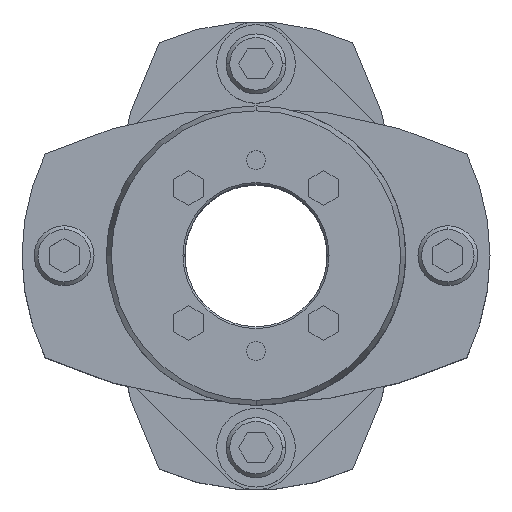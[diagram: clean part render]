
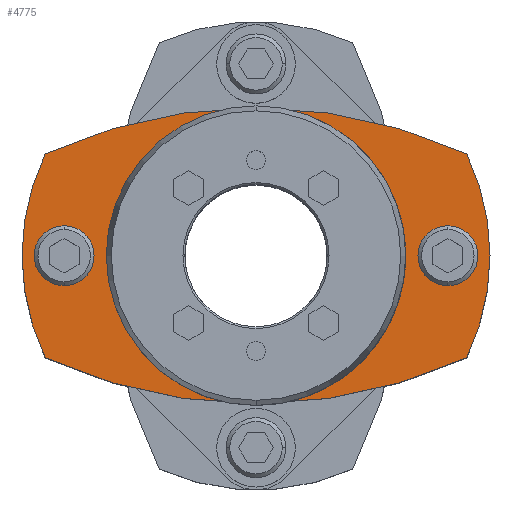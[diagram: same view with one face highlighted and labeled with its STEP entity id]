
A CAD part, top view. The second image highlights one B-rep face of the part: STEP entity #4775.
In plain terms, the highlighted planar face has unit normal (0, 0, 1).
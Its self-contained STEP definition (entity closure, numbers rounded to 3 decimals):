
#2207=CARTESIAN_POINT('',(0.,39.5,35.5));
#2208=VERTEX_POINT('',#2207);
#2224=CARTESIAN_POINT('',(-56.263,27.217,35.5));
#2225=VERTEX_POINT('',#2224);
#2232=CARTESIAN_POINT('',(0.,-95.5,35.5));
#2233=DIRECTION('',(0.0,0.0,-1.0));
#2234=DIRECTION('',(0.0,1.0,0.0));
#2235=AXIS2_PLACEMENT_3D('',#2232,#2233,#2234);
#2236=CIRCLE('',#2235,135.);
#2237=EDGE_CURVE('',#2225,#2208,#2236,.T.);
#2247=CARTESIAN_POINT('',(0.,-39.5,35.5));
#2248=VERTEX_POINT('',#2247);
#2257=CARTESIAN_POINT('',(-56.263,-27.217,35.5));
#2258=VERTEX_POINT('',#2257);
#2259=CARTESIAN_POINT('',(0.,95.5,35.5));
#2260=DIRECTION('',(0.0,0.0,-1.0));
#2261=DIRECTION('',(0.0,1.0,0.0));
#2262=AXIS2_PLACEMENT_3D('',#2259,#2260,#2261);
#2263=CIRCLE('',#2262,135.);
#2264=EDGE_CURVE('',#2248,#2258,#2263,.T.);
#2513=CARTESIAN_POINT('',(0.,30.5,35.5));
#2514=VERTEX_POINT('',#2513);
#2564=CARTESIAN_POINT('',(0.,-30.5,35.5));
#2565=VERTEX_POINT('',#2564);
#2572=CARTESIAN_POINT('',(0.,0.,35.5));
#2573=DIRECTION('',(0.0,0.0,-1.0));
#2574=DIRECTION('',(0.0,1.0,0.0));
#2575=AXIS2_PLACEMENT_3D('',#2572,#2573,#2574);
#2576=CIRCLE('',#2575,30.5);
#2577=EDGE_CURVE('',#2514,#2565,#2576,.T.);
#2673=CARTESIAN_POINT('',(-51.25,8.,35.5));
#2674=VERTEX_POINT('',#2673);
#2690=CARTESIAN_POINT('',(-51.25,-8.,35.5));
#2691=VERTEX_POINT('',#2690);
#2698=CARTESIAN_POINT('',(-51.25,0.,35.5));
#2699=DIRECTION('',(0.0,0.0,-1.0));
#2700=DIRECTION('',(0.0,1.0,0.0));
#2701=AXIS2_PLACEMENT_3D('',#2698,#2699,#2700);
#2702=CIRCLE('',#2701,8.0);
#2703=EDGE_CURVE('',#2674,#2691,#2702,.T.);
#2747=CARTESIAN_POINT('',(51.25,8.,35.5));
#2748=VERTEX_POINT('',#2747);
#2764=CARTESIAN_POINT('',(51.25,-8.,35.5));
#2765=VERTEX_POINT('',#2764);
#2772=CARTESIAN_POINT('',(51.25,0.,35.5));
#2773=DIRECTION('',(0.0,0.0,-1.0));
#2774=DIRECTION('',(0.0,1.0,0.0));
#2775=AXIS2_PLACEMENT_3D('',#2772,#2773,#2774);
#2776=CIRCLE('',#2775,8.0);
#2777=EDGE_CURVE('',#2748,#2765,#2776,.T.);
#3316=CARTESIAN_POINT('',(51.25,0.,35.5));
#3317=DIRECTION('',(0.0,0.0,-1.0));
#3318=DIRECTION('',(0.0,1.0,0.0));
#3319=AXIS2_PLACEMENT_3D('',#3316,#3317,#3318);
#3320=CIRCLE('',#3319,8.0);
#3321=EDGE_CURVE('',#2765,#2748,#3320,.T.);
#3376=CARTESIAN_POINT('',(-51.25,0.,35.5));
#3377=DIRECTION('',(0.0,0.0,-1.0));
#3378=DIRECTION('',(0.0,1.0,0.0));
#3379=AXIS2_PLACEMENT_3D('',#3376,#3377,#3378);
#3380=CIRCLE('',#3379,8.0);
#3381=EDGE_CURVE('',#2691,#2674,#3380,.T.);
#4448=CARTESIAN_POINT('',(0.,0.,35.5));
#4449=DIRECTION('',(0.0,0.0,-1.0));
#4450=DIRECTION('',(0.0,1.0,0.0));
#4451=AXIS2_PLACEMENT_3D('',#4448,#4449,#4450);
#4452=CIRCLE('',#4451,30.5);
#4453=EDGE_CURVE('',#2565,#2514,#4452,.T.);
#4669=CARTESIAN_POINT('',(56.263,27.217,35.5));
#4670=VERTEX_POINT('',#4669);
#4671=CARTESIAN_POINT('',(56.263,-27.217,35.5));
#4672=VERTEX_POINT('',#4671);
#4673=CARTESIAN_POINT('',(0.,0.,35.5));
#4674=DIRECTION('',(0.0,0.0,-1.0));
#4675=DIRECTION('',(0.0,1.0,0.0));
#4676=AXIS2_PLACEMENT_3D('',#4673,#4674,#4675);
#4677=CIRCLE('',#4676,62.5);
#4678=EDGE_CURVE('',#4670,#4672,#4677,.T.);
#4704=CARTESIAN_POINT('',(0.,95.5,35.5));
#4705=DIRECTION('',(0.0,0.0,-1.0));
#4706=DIRECTION('',(0.0,1.0,0.0));
#4707=AXIS2_PLACEMENT_3D('',#4704,#4705,#4706);
#4708=CIRCLE('',#4707,135.);
#4709=EDGE_CURVE('',#4672,#2248,#4708,.T.);
#4719=CARTESIAN_POINT('',(0.,0.,35.5));
#4720=DIRECTION('',(0.0,0.0,-1.0));
#4721=DIRECTION('',(0.0,1.0,0.0));
#4722=AXIS2_PLACEMENT_3D('',#4719,#4720,#4721);
#4723=CIRCLE('',#4722,62.5);
#4724=EDGE_CURVE('',#2258,#2225,#4723,.T.);
#4738=CARTESIAN_POINT('',(0.,-95.5,35.5));
#4739=DIRECTION('',(0.0,0.0,-1.0));
#4740=DIRECTION('',(0.0,1.0,0.0));
#4741=AXIS2_PLACEMENT_3D('',#4738,#4739,#4740);
#4742=CIRCLE('',#4741,135.);
#4743=EDGE_CURVE('',#2208,#4670,#4742,.T.);
#4750=CARTESIAN_POINT('',(0.,0.,35.5));
#4751=DIRECTION('',(0.0,0.0,1.0));
#4752=DIRECTION('',(0.0,1.0,0.0));
#4753=AXIS2_PLACEMENT_3D('',#4750,#4751,#4752);
#4754=PLANE('',#4753);
#4755=ORIENTED_EDGE('',*,*,#4678,.F.);
#4756=ORIENTED_EDGE('',*,*,#4743,.F.);
#4757=ORIENTED_EDGE('',*,*,#2237,.F.);
#4758=ORIENTED_EDGE('',*,*,#4724,.F.);
#4759=ORIENTED_EDGE('',*,*,#2264,.F.);
#4760=ORIENTED_EDGE('',*,*,#4709,.F.);
#4761=EDGE_LOOP('',(#4755,#4756,#4757,#4758,#4759,#4760));
#4762=FACE_OUTER_BOUND('',#4761,.T.);
#4763=ORIENTED_EDGE('',*,*,#2703,.T.);
#4764=ORIENTED_EDGE('',*,*,#3381,.T.);
#4765=EDGE_LOOP('',(#4763,#4764));
#4766=FACE_BOUND('',#4765,.T.);
#4767=ORIENTED_EDGE('',*,*,#2777,.T.);
#4768=ORIENTED_EDGE('',*,*,#3321,.T.);
#4769=EDGE_LOOP('',(#4767,#4768));
#4770=FACE_BOUND('',#4769,.T.);
#4771=ORIENTED_EDGE('',*,*,#2577,.T.);
#4772=ORIENTED_EDGE('',*,*,#4453,.T.);
#4773=EDGE_LOOP('',(#4771,#4772));
#4774=FACE_BOUND('',#4773,.T.);
#4775=ADVANCED_FACE('',(#4762,#4766,#4770,#4774),#4754,.T.);
